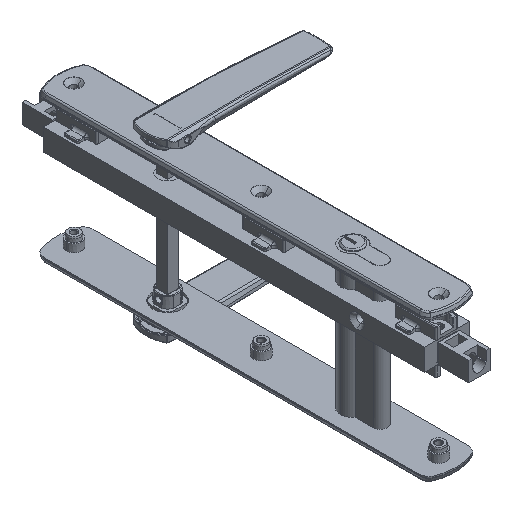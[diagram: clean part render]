
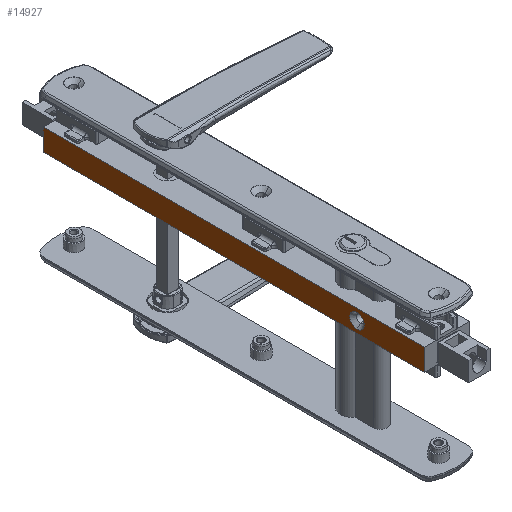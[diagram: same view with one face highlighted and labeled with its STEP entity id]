
A CAD part, isometric view. The second image highlights one B-rep face of the part: STEP entity #14927.
In plain terms, the highlighted planar face has unit normal (-1, 0, 0).
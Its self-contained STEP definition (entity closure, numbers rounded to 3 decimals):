
#6 = FACE_OUTER_BOUND ( 'NONE', #2620, .T. ) ;
#2328 = ORIENTED_EDGE ( 'NONE', *, *, #43059, .F. ) ;
#2620 = EDGE_LOOP ( 'NONE', ( #45381, #41343, #44838, #43566 ) ) ;
#2780 = VECTOR ( 'NONE', #27324, 1000. ) ;
#4152 = ORIENTED_EDGE ( 'NONE', *, *, #46477, .F. ) ;
#4545 = DIRECTION ( 'NONE',  ( 0., 1., 0. ) ) ;
#4904 = VERTEX_POINT ( 'NONE', #27561 ) ;
#7854 = CARTESIAN_POINT ( 'NONE',  ( -16., 72.75, 7.75 ) ) ;
#8493 = DIRECTION ( 'NONE',  ( 0., 0., -1. ) ) ;
#8608 = CARTESIAN_POINT ( 'NONE',  ( -16., 72.75, 7.75 ) ) ;
#8733 = CARTESIAN_POINT ( 'NONE',  ( -16., -151., 5.2 ) ) ;
#10038 = CARTESIAN_POINT ( 'NONE',  ( -16., -151., 0. ) ) ;
#10512 = EDGE_CURVE ( 'NONE', #41459, #31462, #28899, .T. ) ;
#12035 = CIRCLE ( 'NONE', #44897, 5.2 ) ;
#14334 = EDGE_CURVE ( 'NONE', #41459, #48808, #16000, .T. ) ;
#14927 = ADVANCED_FACE ( 'NONE', ( #38231, #6 ), #34979, .F. ) ;
#15597 = VERTEX_POINT ( 'NONE', #8733 ) ;
#16000 = LINE ( 'NONE', #37833, #28594 ) ;
#16058 = LINE ( 'NONE', #16301, #35410 ) ;
#16301 = CARTESIAN_POINT ( 'NONE',  ( -16., -199.25, 7.75 ) ) ;
#17695 = CARTESIAN_POINT ( 'NONE',  ( -16., 72.75, -7.75 ) ) ;
#18277 = CIRCLE ( 'NONE', #24708, 5.2 ) ;
#19216 = VERTEX_POINT ( 'NONE', #29593 ) ;
#20695 = AXIS2_PLACEMENT_3D ( 'NONE', #7854, #26959, #4545 ) ;
#21073 = CARTESIAN_POINT ( 'NONE',  ( -16., -199.25, 7.75 ) ) ;
#21364 = DIRECTION ( 'NONE',  ( 0., 0., 1. ) ) ;
#21609 = DIRECTION ( 'NONE',  ( 0., 0., -1. ) ) ;
#22049 = DIRECTION ( 'NONE',  ( 0., 0., 1. ) ) ;
#23017 = DIRECTION ( 'NONE',  ( 0., -1., 0. ) ) ;
#24708 = AXIS2_PLACEMENT_3D ( 'NONE', #10038, #47937, #21364 ) ;
#25398 = EDGE_CURVE ( 'NONE', #48808, #19216, #16058, .T. ) ;
#26959 = DIRECTION ( 'NONE',  ( 1., 0., 0. ) ) ;
#27324 = DIRECTION ( 'NONE',  ( 0., -1., 0. ) ) ;
#27561 = CARTESIAN_POINT ( 'NONE',  ( -16., -151., -5.2 ) ) ;
#28594 = VECTOR ( 'NONE', #23017, 1000. ) ;
#28899 = LINE ( 'NONE', #47445, #48326 ) ;
#29593 = CARTESIAN_POINT ( 'NONE',  ( -16., -199.25, -7.75 ) ) ;
#31088 = LINE ( 'NONE', #34593, #2780 ) ;
#31462 = VERTEX_POINT ( 'NONE', #17695 ) ;
#34593 = CARTESIAN_POINT ( 'NONE',  ( -16., 72.75, -7.75 ) ) ;
#34979 = PLANE ( 'NONE',  #20695 ) ;
#35410 = VECTOR ( 'NONE', #8493, 1000. ) ;
#37833 = CARTESIAN_POINT ( 'NONE',  ( -16., 72.75, 7.75 ) ) ;
#37939 = EDGE_CURVE ( 'NONE', #31462, #19216, #31088, .T. ) ;
#38231 = FACE_BOUND ( 'NONE', #42029, .T. ) ;
#41077 = DIRECTION ( 'NONE',  ( -1., 0., 0. ) ) ;
#41343 = ORIENTED_EDGE ( 'NONE', *, *, #25398, .F. ) ;
#41459 = VERTEX_POINT ( 'NONE', #8608 ) ;
#42029 = EDGE_LOOP ( 'NONE', ( #2328, #4152 ) ) ;
#43059 = EDGE_CURVE ( 'NONE', #15597, #4904, #18277, .T. ) ;
#43566 = ORIENTED_EDGE ( 'NONE', *, *, #10512, .T. ) ;
#44838 = ORIENTED_EDGE ( 'NONE', *, *, #14334, .F. ) ;
#44897 = AXIS2_PLACEMENT_3D ( 'NONE', #49342, #41077, #22049 ) ;
#45381 = ORIENTED_EDGE ( 'NONE', *, *, #37939, .T. ) ;
#46477 = EDGE_CURVE ( 'NONE', #4904, #15597, #12035, .T. ) ;
#47445 = CARTESIAN_POINT ( 'NONE',  ( -16., 72.75, 7.75 ) ) ;
#47937 = DIRECTION ( 'NONE',  ( -1., 0., 0. ) ) ;
#48326 = VECTOR ( 'NONE', #21609, 1000. ) ;
#48808 = VERTEX_POINT ( 'NONE', #21073 ) ;
#49342 = CARTESIAN_POINT ( 'NONE',  ( -16., -151., 0. ) ) ;
